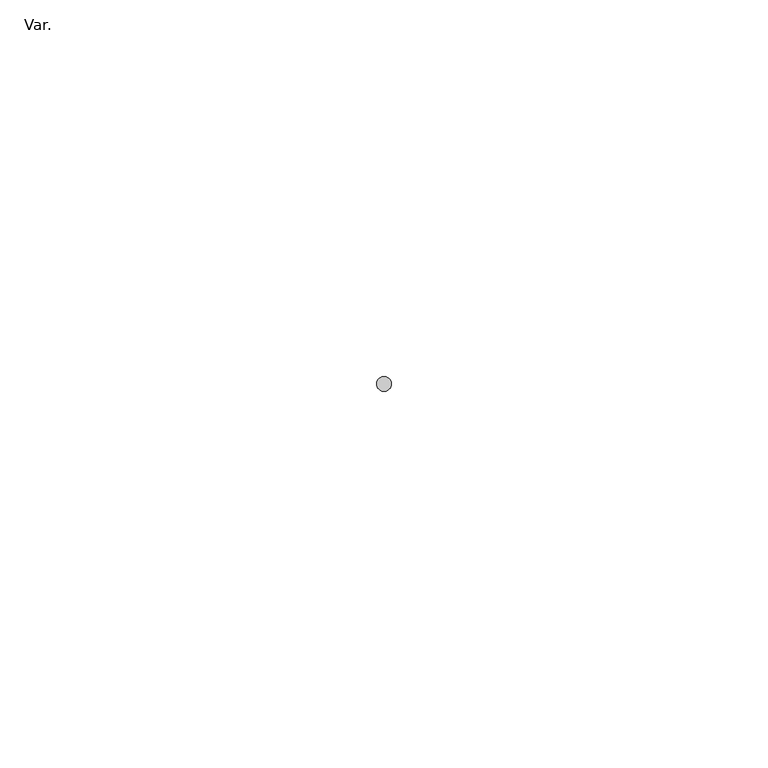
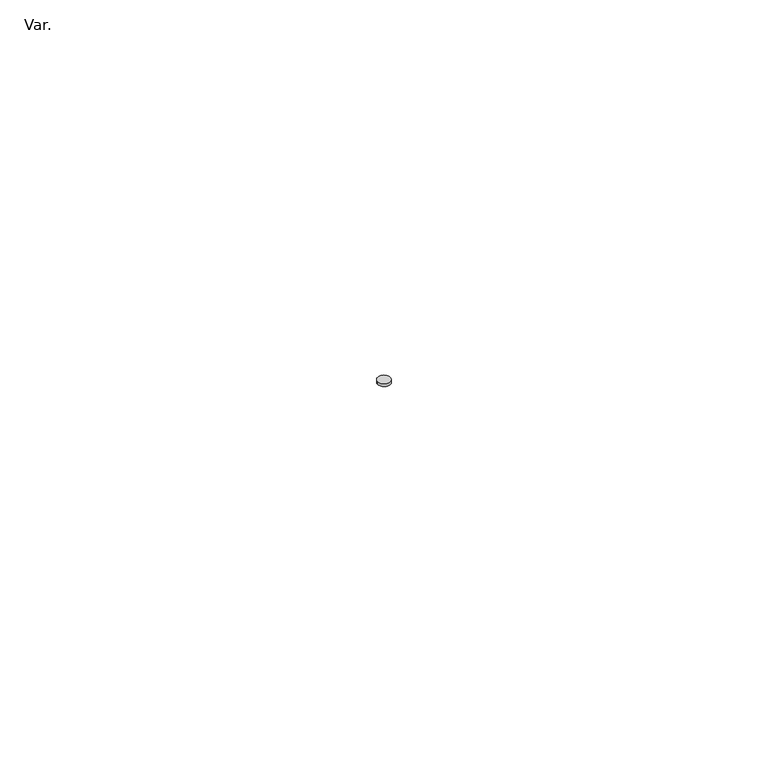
"""IFC4 building model written with IfcOpenShell, lengths in millimetres: pipe fitting geometry, AmancoWavin_Unionesdetubería_AquacellZNoUsarClip : Var.."""

from ifc_helpers import new_model, si_unit, point, frame, frame_2d, origin, place, context, project, spatial, circle_curve, trimmed, segment, composite_curve, outline, extrude, source, transform, mapped, element, save


def var_825fd33e(model_context):
    return source(origin(), model_context, "Body", "SweptSolid", [
        extrude(outline(composite_curve([segment(trimmed(circle_curve(frame_2d((0.0863462, -0.2003919)), 0.984872), [point((-0.8985258, -0.2003919))], [point((1.0712182, -0.2003919))], False, "CARTESIAN"), True, "CONTINUOUS"), segment(trimmed(circle_curve(frame_2d((0.0863462, -0.2003919)), 0.984872), [point((1.0712182, -0.2003919))], [point((-0.8985258, -0.2003919))], False, "CARTESIAN"), True, "CONTINUOUS")], self_intersect=False)), frame((0.0, 0.0, 249.5319001), z_axis=(0.0, 0.0, 1.0), x_axis=(1.0, 0.0, 0.0)), (0.0, 0.0, 1.0), 0.4680999),
    ])


if __name__ == "__main__":
    model = new_model("IFC4")
    model_context = context("Model", 3, world=origin())
    ifc_project = project(units=[si_unit("LENGTHUNIT", "METRE", prefix="MILLI")], contexts=[model_context])
    site = spatial("IfcSite", under=ifc_project)
    building = spatial("IfcBuilding", under=site)
    placement = place(None, origin())
    var_shape = var_825fd33e(model_context)
    element("IfcPipeFitting", 1, ObjectType="AmancoWavin_Unionesdetubería_AquacellZNoUsarClip : Var.", at=placement, inside=building, context=model_context, shape_type="MappedRepresentation", body=[
        mapped(var_shape, transform((0.0, 0.0, 0.0), x_axis=(1.0, 0.0, 0.0), y_axis=(0.0, 1.0, 0.0), z_axis=(0.0, 0.0, 1.0))),
    ])
    save(model, "model.ifc")
